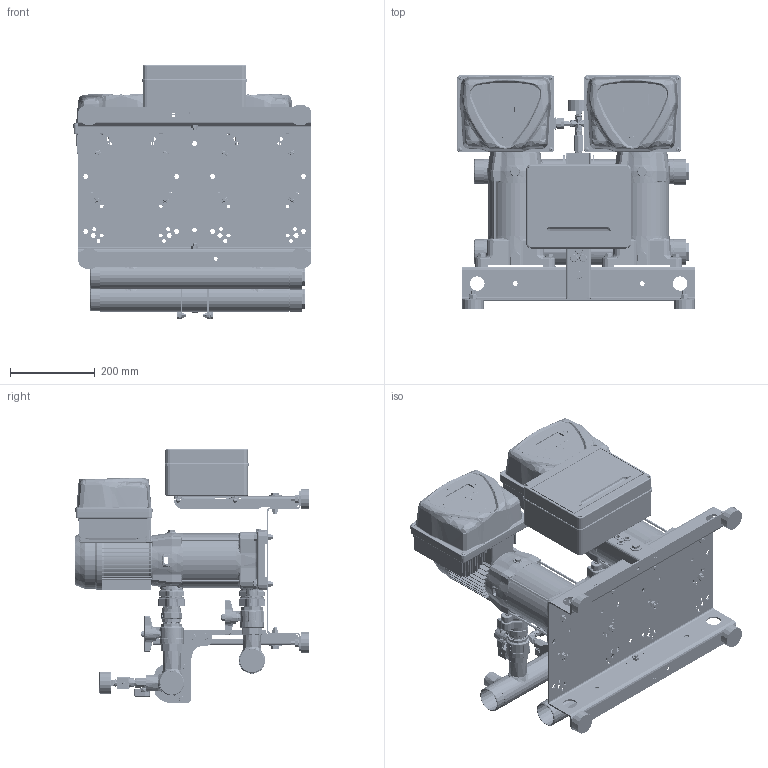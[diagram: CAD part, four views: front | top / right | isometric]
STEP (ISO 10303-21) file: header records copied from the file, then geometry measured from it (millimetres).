
FILE_DESCRIPTION((''),'2;1');
FILE_NAME('2GPE_CVM_A10_ESPT_REV4_ASM','2024-12-03T12:57:32',('Utente'),('"Ebara Pumps Europe S.p.A"'),'CREO PARAMETRIC BY PTC INC, 2022124','CREO PARAMETRIC BY PTC INC, 2022124','');
FILE_SCHEMA(('AUTOMOTIVE_DESIGN { 1 0 10303 214 1 1 1 1 }'));
Products named in the file (46): 62508_275562936; CALOTTA_F_A304_DN50_369800820; VAL_INT_MF_OTN_CIM301-14_DN32; VAL_INT_M-F_OTN_CIM301_DN32_ASM; EP_CVM_A-10_R; EP_CVM_A-10_R_ASM; ADATTATORE_E-SPD_MEC71; E-SPD_ADATTATORE_MEC71_ASM; BACK_E-SPD_PLUS_2200-4000; COVER_E-SPD_PLUS_2200-4000; COM_E-SPDT_MEC71_VERT_ASM; VAL-NR-MF-OTN-CIM32-DN32; VALV_NR_MF_CIM32_DN32_ASM; COM_E-SPDM_MEC71_VERT_ASM; RONDEL-P_FE_ZN_UNI6592_M10; DADO_AUTOAGG_M10_ESAG; VITI_TE_ISO4017_M10_L40; 62513_275562944; VAL_INT_MF_OTN_CIM012_DN8; NIPPLO_OTG_8_380000861; CROCE_OTG_DN8_380000881; TRASD_16BAR_460500024; MAN_POS_D50_10BAR_361600003; BASE_2GP_I300-B300_DNRV; MONTANTE_H300_271472898; PIEDINO_CIL_369650010; DADI_NORM_ISO4032_FE_ZN_M10; RONDEL-P_ZN_UNI6593_M10X30X2-5; VITI_TE_ISO4017_M10_L45; TRAVERSO_MONT_L200_271472882; RONDEL-P_FE_ZN_UNI6593_M6X18X2; RONDEL-P_FE_ZN_UNI6592_M6; VITI_TE_ISO4017_M6_L20; DADI_NORM_ISO4032_FE_ZN_M6; DNRV_2P_I300-B300_H300-Q250X198_ASM; QUADRO_PROT_2P_T_ELENTEK; PG_PVC_D10-5_380000891; TAPPO-SALVAFIL_D31; 271473006; 271472998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
Assembly tree (136 placements, depth 3):
  2GPE_CVM_A10_ESPT_REV4_ASM
    62508_275562936
    CALOTTA_F_A304_DN50_369800820  x2
    VAL_INT_M-F_OTN_CIM301_DN32_ASM  x4
      VAL_INT_MF_OTN_CIM301-14_DN32
    EP_CVM_A-10_R_ASM  x2
      EP_CVM_A-10_R
    E-SPD_ADATTATORE_MEC71_ASM  x2
      ADATTATORE_E-SPD_MEC71
    COM_E-SPDT_MEC71_VERT_ASM
      BACK_E-SPD_PLUS_2200-4000
      COVER_E-SPD_PLUS_2200-4000
    VALV_NR_MF_CIM32_DN32_ASM  x2
      VAL-NR-MF-OTN-CIM32-DN32
    COM_E-SPDM_MEC71_VERT_ASM
      BACK_E-SPD_PLUS_2200-4000
      COVER_E-SPD_PLUS_2200-4000
    RONDEL-P_FE_ZN_UNI6592_M10  x8
    DADO_AUTOAGG_M10_ESAG  x9
    VITI_TE_ISO4017_M10_L40  x8
    62513_275562944
    VAL_INT_MF_OTN_CIM012_DN8
    NIPPLO_OTG_8_380000861
    CROCE_OTG_DN8_380000881
    TRASD_16BAR_460500024  x2
    MAN_POS_D50_10BAR_361600003
    DNRV_2P_I300-B300_H300-Q250X198_ASM
      BASE_2GP_I300-B300_DNRV
      MONTANTE_H300_271472898
      PIEDINO_CIL_369650010  x4
      RONDEL-P_FE_ZN_UNI6592_M10  x4
      DADI_NORM_ISO4032_FE_ZN_M10  x4
      RONDEL-P_ZN_UNI6593_M10X30X2-5
      VITI_TE_ISO4017_M10_L45
      TRAVERSO_MONT_L200_271472882  x2
      RONDEL-P_FE_ZN_UNI6593_M6X18X2  x8
      RONDEL-P_FE_ZN_UNI6592_M6  x4
      VITI_TE_ISO4017_M6_L20  x4
      DADI_NORM_ISO4032_FE_ZN_M6  x4
      DADO_AUTOAGG_M10_ESAG
    QUADRO_PROT_2P_T_ELENTEK
    PG_PVC_D10-5_380000891  x3
    TAPPO-SALVAFIL_D31  x2
    271473006
    271472998  x2
    72578_271473004  x2
    RONDEL-P_ZN_UNI6593_M10X30X2-5
    VITI_TE_ISO4017_M10_L45
    RONDEL-P_FE_ZN_UNI6592_M8  x12
    VITI_TE_ISO4017_M8_L18  x8
    DADI_NORM_ISO4032_FE_ZN_M8  x4
    DADO_AUTOAGG_M8_ESAG  x4
Bounding box: 562.5 x 553.6 x 601.25 mm (x, y, z)
Volume: 4263002.3 mm3; surface area: 4592727 mm2
Topology: 296 solids, 1277 shells, 32658 faces, 85173 edges, 52542 vertices
Faces by surface type: plane 15767, cylinder 8005, bspline 2637, sphere 2073, cone 1521, extrusion 1426, torus 1229
Entity records: 735564 total; most frequent: CARTESIAN_POINT 288276, ORIENTED_EDGE 74528, DIRECTION 71858, EDGE_CURVE 38610, VERTEX_POINT 24222, AXIS2_PLACEMENT_3D 23980, VECTOR 23764, LINE 23134
